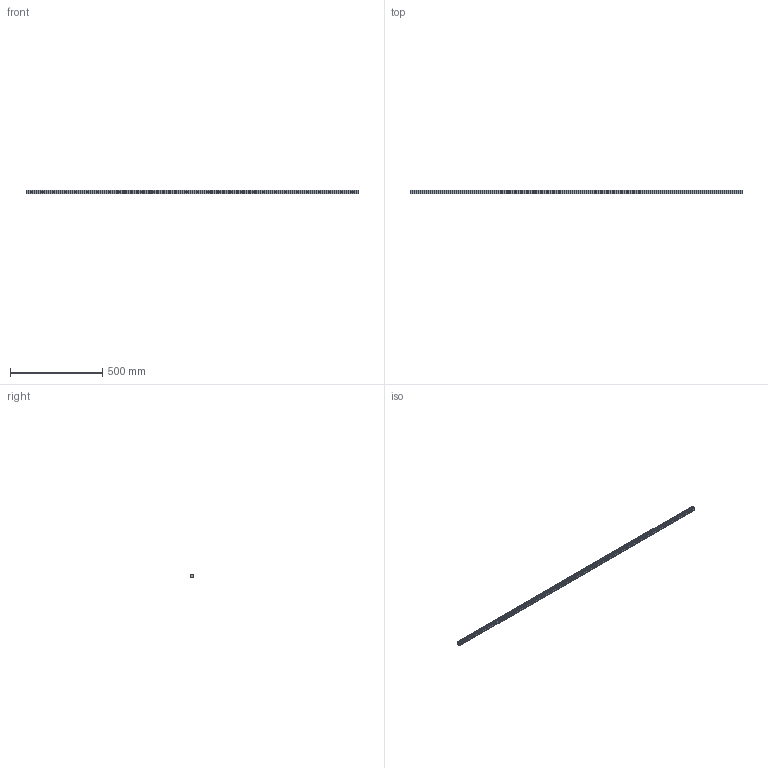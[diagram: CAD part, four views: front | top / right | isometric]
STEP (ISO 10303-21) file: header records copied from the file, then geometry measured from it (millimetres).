
FILE_DESCRIPTION (( 'STEP AP203' ), '1' );
FILE_NAME ('L1018.20R-1800.step', '2023-08-06T09:10:00', ( '' ), ( '' ), 'SwSTEP 2.0', 'SolidWorks 2019', '' );
FILE_SCHEMA (( 'CONFIG_CONTROL_DESIGN' ));
Length unit declared in the file: millimetre
Products named in the file (1): L1018.20R-1800
Bounding box: 1800 x 19.3 x 20 mm (x, y, z)
Volume: 570830.9 mm3; surface area: 152553.4 mm2
Topology: 1 solids, 1 shells, 299 faces, 681 edges, 384 vertices
Faces by surface type: cylinder 123, cone 120, plane 56
Entity records: 8018 total; most frequent: DIRECTION 1527, CARTESIAN_POINT 1305, ORIENTED_EDGE 1242, EDGE_CURVE 621, AXIS2_PLACEMENT_3D 606, VERTEX_POINT 384, EDGE_LOOP 359, LINE 315
